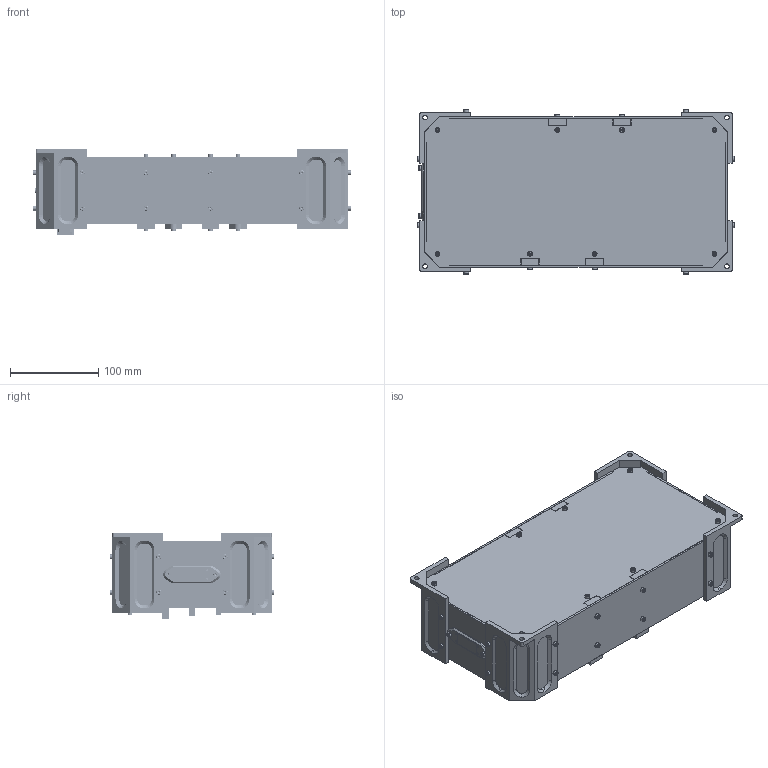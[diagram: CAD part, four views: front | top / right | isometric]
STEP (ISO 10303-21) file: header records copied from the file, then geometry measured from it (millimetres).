
FILE_DESCRIPTION (( 'STEP AP203' ), '1' );
FILE_NAME ('Ultracapacitor Pack v3.1.STEP', '2024-01-30T08:12:22', ( '' ), ( '' ), 'SwSTEP 2.0', 'SolidWorks 2021', '' );
FILE_SCHEMA (( 'CONFIG_CONTROL_DESIGN' ));
Length unit declared in the file: millimetre
Products named in the file (16): LED Voltage Display + Casing Assem; Support between FR4 and SC; LED Display Mounting; Top_SC Base FR4; Ultracapacitor Pack v3.1; FR4 wall front and back; Voltage monitor LED; socket head cap screw_am_B18.3.1M - 3 x 0.5 x 12 Hex SHCS -- 12NHX; XT60 Male; XT90 Female; FR4 wall back; XT60 Female; SC Base FR4; FR4 wall side; PCB_UC BANK V3.1; SCB_Mounting
Assembly tree (59 placements, depth 3):
  Ultracapacitor Pack v3.1
    Support between FR4 and SC  x4
    SCB_Mounting  x4
    Top_SC Base FR4
    FR4 wall front and back
    FR4 wall back
    FR4 wall side  x2
    SC Base FR4
    LED Voltage Display + Casing Assem
      LED Display Mounting
      Voltage monitor LED
    PCB_UC BANK V3.1
    XT90 Female
    XT60 Female
    XT60 Male
    socket head cap screw_am_B18.3.1M - 3 x 0.5 x 12 Hex SHCS -- 12NHX  x38
Bounding box: 359 x 186 x 97.4 mm (x, y, z)
Volume: 753832.1 mm3; surface area: 814006.1 mm2
Topology: 63 solids, 304 shells, 3293 faces, 8421 edges, 5601 vertices
Faces by surface type: plane 2118, cylinder 606, bspline 365, cone 166, torus 38
Full cylindrical faces by diameter (mm): 0.472 x1, 1.8 x96, 2 x36, 2.1 x96, 2.3 x80, 2.5 x16, 2.9 x4, 3 x46, 3.3 x2, 3.5 x58, 3.87 x2, 4 x8, 4.2 x20, 4.65 x4, 4.87 x2, 5.2 x4, 5.5 x38, 5.67 x4, 5.7 x4, 6 x2, 7.1 x2, 8.5 x2, 33 x1, 35 x24
Entity records: 77974 total; most frequent: CARTESIAN_POINT 22194, ORIENTED_EDGE 10363, DIRECTION 9676, EDGE_CURVE 5470, VERTEX_POINT 4021, VECTOR 3398, LINE 3398, EDGE_LOOP 3299
